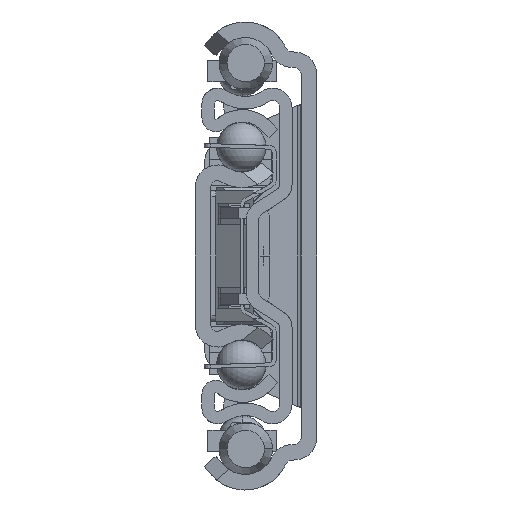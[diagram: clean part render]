
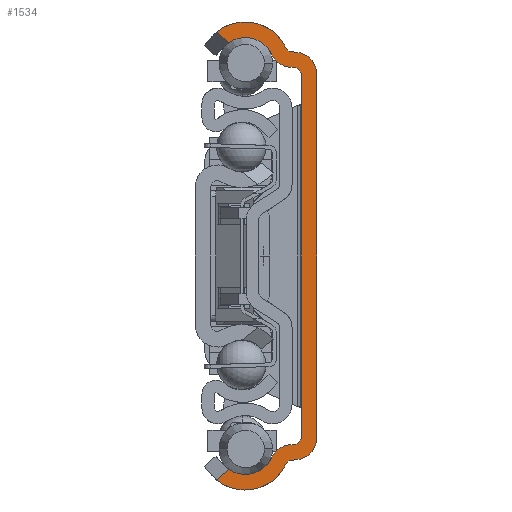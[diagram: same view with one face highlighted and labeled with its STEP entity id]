
A CAD part, left-side view. The second image highlights one B-rep face of the part: STEP entity #1534.
In plain terms, the highlighted planar face has unit normal (-1, 0, 0).
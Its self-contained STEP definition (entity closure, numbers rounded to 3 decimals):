
#1=DIRECTION('',(0.,-0.769,-0.639));
#2=VECTOR('',#1,2.575);
#3=CARTESIAN_POINT('',(0.,16.079,36.021));
#4=LINE('',#3,#2);
#5=CARTESIAN_POINT('',(0.,11.5,30.4));
#6=DIRECTION('',(1.,0.,0.));
#7=DIRECTION('',(0.,0.632,0.775));
#8=AXIS2_PLACEMENT_3D('',#5,#6,#7);
#10=DIRECTION('',(0.,-0.996,-0.087));
#11=VECTOR('',#10,0.904);
#12=CARTESIAN_POINT('',(0.,4.095,32.858));
#13=LINE('',#12,#11);
#14=CARTESIAN_POINT('',(0.,3.5,29.293));
#15=DIRECTION('',(-1.,0.,0.));
#16=DIRECTION('',(0.,-1.,0.));
#17=AXIS2_PLACEMENT_3D('',#14,#15,#16);
#19=DIRECTION('',(0.,0.,-1.));
#20=VECTOR('',#19,58.586);
#21=CARTESIAN_POINT('',(0.,0.,29.293));
#22=LINE('',#21,#20);
#23=CARTESIAN_POINT('',(0.,3.5,-29.293));
#24=DIRECTION('',(-1.,0.,0.));
#25=DIRECTION('',(0.,-0.087,-0.996));
#26=AXIS2_PLACEMENT_3D('',#23,#24,#25);
#28=DIRECTION('',(0.,0.996,-0.087));
#29=VECTOR('',#28,0.904);
#30=CARTESIAN_POINT('',(0.,3.195,-32.78));
#31=LINE('',#30,#29);
#32=CARTESIAN_POINT('',(0.,11.5,-30.4));
#33=DIRECTION('',(1.,0.,0.));
#34=DIRECTION('',(0.,-0.908,-0.419));
#35=AXIS2_PLACEMENT_3D('',#32,#33,#34);
#37=DIRECTION('',(0.,0.769,-0.639));
#38=VECTOR('',#37,2.575);
#39=CARTESIAN_POINT('',(0.,14.098,
-34.377));
#40=LINE('',#39,#38);
#41=CARTESIAN_POINT('',(0.,11.5,-30.4));
#42=DIRECTION('',(-1.,0.,0.));
#43=DIRECTION('',(0.,0.547,-0.837));
#44=AXIS2_PLACEMENT_3D('',#41,#42,#43);
#46=CARTESIAN_POINT('',(0.,4.008,-33.854));
#47=DIRECTION('',(-1.,0.,0.));
#48=DIRECTION('',(0.,0.087,0.996));
#49=AXIS2_PLACEMENT_3D('',#46,#47,#48);
#51=DIRECTION('',(0.,-0.996,0.087));
#52=VECTOR('',#51,0.904);
#53=CARTESIAN_POINT('',(0.,4.313,-30.368));
#54=LINE('',#53,#52);
#55=DIRECTION('',(0.,0.,1.));
#56=VECTOR('',#55,58.586);
#57=CARTESIAN_POINT('',(0.,2.5,-29.293));
#58=LINE('',#57,#56);
#59=DIRECTION('',(0.,0.996,0.087));
#60=VECTOR('',#59,0.904);
#61=CARTESIAN_POINT('',(0.,3.413,30.289));
#62=LINE('',#61,#60);
#63=CARTESIAN_POINT('',(0.,4.008,33.854));
#64=DIRECTION('',(-1.,0.,0.));
#65=DIRECTION('',(0.,0.908,-0.419));
#66=AXIS2_PLACEMENT_3D('',#63,#64,#65);
#68=CARTESIAN_POINT('',(0.,11.5,30.4));
#69=DIRECTION('',(-1.,0.,0.));
#70=DIRECTION('',(0.,-0.908,0.419));
#71=AXIS2_PLACEMENT_3D('',#68,#69,#70);
#73=CARTESIAN_POINT('',(0.,14.098,34.377));
#121=CARTESIAN_POINT('',(0.,3.5,29.293));
#122=DIRECTION('',(1.,0.,0.));
#123=DIRECTION('',(0.,-0.087,0.996));
#124=AXIS2_PLACEMENT_3D('',#121,#122,#123);
#704=CARTESIAN_POINT('',(0.,16.079,
36.021));
#770=CARTESIAN_POINT('',(0.,16.079,
-36.021));
#824=CARTESIAN_POINT('',(0.,14.098,
-34.377));
#1113=CARTESIAN_POINT('',(0.,3.5,-29.293));
#1114=DIRECTION('',(1.,0.,0.));
#1115=DIRECTION('',(0.,-1.,0.));
#1116=AXIS2_PLACEMENT_3D('',#1113,#1114,#1115);
#1123=CARTESIAN_POINT('',(0.,4.008,-33.854));
#1124=DIRECTION('',(1.,0.,0.));
#1125=DIRECTION('',(0.,0.908,0.419));
#1126=AXIS2_PLACEMENT_3D('',#1123,#1124,#1125);
#1141=CARTESIAN_POINT('',(0.,4.008,33.854));
#1142=DIRECTION('',(1.,0.,0.));
#1143=DIRECTION('',(0.,0.087,-0.996));
#1144=AXIS2_PLACEMENT_3D('',#1141,#1142,#1143);
#1159=CARTESIAN_POINT('',(0.,2.5,-29.293));
#1160=CARTESIAN_POINT('',(0.,2.5,29.293));
#1161=VERTEX_POINT('',#1159);
#1162=VERTEX_POINT('',#1160);
#1163=CARTESIAN_POINT('',(0.,3.413,-30.289));
#1164=VERTEX_POINT('',#1163);
#1165=CARTESIAN_POINT('',(0.,3.413,30.289));
#1166=VERTEX_POINT('',#1165);
#1167=CARTESIAN_POINT('',(0.,4.095,32.858));
#1168=CARTESIAN_POINT('',(0.,4.916,33.436));
#1169=VERTEX_POINT('',#1167);
#1170=VERTEX_POINT('',#1168);
#1171=CARTESIAN_POINT('',(0.,4.916,-33.436));
#1172=CARTESIAN_POINT('',(0.,4.095,-32.858));
#1173=VERTEX_POINT('',#1171);
#1174=VERTEX_POINT('',#1172);
#1175=CARTESIAN_POINT('',(0.,4.313,-30.368));
#1176=CARTESIAN_POINT('',(0.,7.186,-32.389));
#1177=VERTEX_POINT('',#1175);
#1178=VERTEX_POINT('',#1176);
#1179=CARTESIAN_POINT('',(0.,7.186,32.389));
#1180=CARTESIAN_POINT('',(0.,4.313,30.368));
#1181=VERTEX_POINT('',#1179);
#1182=VERTEX_POINT('',#1180);
#1183=CARTESIAN_POINT('',(0.,0.,29.293));
#1184=CARTESIAN_POINT('',(0.,3.195,32.78));
#1185=VERTEX_POINT('',#1183);
#1186=VERTEX_POINT('',#1184);
#1187=CARTESIAN_POINT('',(0.,3.195,-32.78));
#1188=CARTESIAN_POINT('',(0.,0.,-29.293));
#1189=VERTEX_POINT('',#1187);
#1190=VERTEX_POINT('',#1188);
#1437=VERTEX_POINT('',#73);
#1445=VERTEX_POINT('',#704);
#1446=VERTEX_POINT('',#770);
#1454=VERTEX_POINT('',#824);
#1487=CARTESIAN_POINT('',(0.,0.,0.));
#1488=DIRECTION('',(1.,0.,0.));
#1489=DIRECTION('',(0.,-1.,0.));
#1490=AXIS2_PLACEMENT_3D('',#1487,#1488,#1489);
#1491=PLANE('',#1490);
#1493=ORIENTED_EDGE('',*,*,#1492,.F.);
#1495=ORIENTED_EDGE('',*,*,#1494,.T.);
#1497=ORIENTED_EDGE('',*,*,#1496,.F.);
#1499=ORIENTED_EDGE('',*,*,#1498,.T.);
#1501=ORIENTED_EDGE('',*,*,#1500,.F.);
#1503=ORIENTED_EDGE('',*,*,#1502,.T.);
#1505=ORIENTED_EDGE('',*,*,#1504,.F.);
#1507=ORIENTED_EDGE('',*,*,#1506,.T.);
#1509=ORIENTED_EDGE('',*,*,#1508,.F.);
#1511=ORIENTED_EDGE('',*,*,#1510,.T.);
#1513=ORIENTED_EDGE('',*,*,#1512,.F.);
#1515=ORIENTED_EDGE('',*,*,#1514,.T.);
#1517=ORIENTED_EDGE('',*,*,#1516,.F.);
#1519=ORIENTED_EDGE('',*,*,#1518,.T.);
#1521=ORIENTED_EDGE('',*,*,#1520,.F.);
#1523=ORIENTED_EDGE('',*,*,#1522,.T.);
#1525=ORIENTED_EDGE('',*,*,#1524,.F.);
#1527=ORIENTED_EDGE('',*,*,#1526,.T.);
#1529=ORIENTED_EDGE('',*,*,#1528,.F.);
#1531=ORIENTED_EDGE('',*,*,#1530,.T.);
#1532=EDGE_LOOP('',(#1493,#1495,#1497,#1499,#1501,#1503,#1505,#1507,#1509,#1511,
#1513,#1515,#1517,#1519,#1521,#1523,#1525,#1527,#1529,#1531));
#1533=FACE_OUTER_BOUND('',#1532,.F.);
#9=CIRCLE('',#8,7.25);
#18=CIRCLE('',#17,3.5);
#27=CIRCLE('',#26,3.5);
#36=CIRCLE('',#35,7.25);
#45=CIRCLE('',#44,4.75);
#50=CIRCLE('',#49,3.5);
#67=CIRCLE('',#66,3.5);
#72=CIRCLE('',#71,4.75);
#125=CIRCLE('',#124,1.);
#1117=CIRCLE('',#1116,1.);
#1127=CIRCLE('',#1126,1.);
#1145=CIRCLE('',#1144,1.);
#1492=EDGE_CURVE('',#1445,#1437,#4,.T.);
#1494=EDGE_CURVE('',#1445,#1170,#9,.T.);
#1496=EDGE_CURVE('',#1169,#1170,#1145,.T.);
#1498=EDGE_CURVE('',#1169,#1186,#13,.T.);
#1500=EDGE_CURVE('',#1185,#1186,#18,.T.);
#1502=EDGE_CURVE('',#1185,#1190,#22,.T.);
#1504=EDGE_CURVE('',#1189,#1190,#27,.T.);
#1506=EDGE_CURVE('',#1189,#1174,#31,.T.);
#1508=EDGE_CURVE('',#1173,#1174,#1127,.T.);
#1510=EDGE_CURVE('',#1173,#1446,#36,.T.);
#1512=EDGE_CURVE('',#1454,#1446,#40,.T.);
#1514=EDGE_CURVE('',#1454,#1178,#45,.T.);
#1516=EDGE_CURVE('',#1177,#1178,#50,.T.);
#1518=EDGE_CURVE('',#1177,#1164,#54,.T.);
#1520=EDGE_CURVE('',#1161,#1164,#1117,.T.);
#1522=EDGE_CURVE('',#1161,#1162,#58,.T.);
#1524=EDGE_CURVE('',#1166,#1162,#125,.T.);
#1526=EDGE_CURVE('',#1166,#1182,#62,.T.);
#1528=EDGE_CURVE('',#1181,#1182,#67,.T.);
#1530=EDGE_CURVE('',#1181,#1437,#72,.T.);
#1534=ADVANCED_FACE('',(#1533),#1491,.F.);
